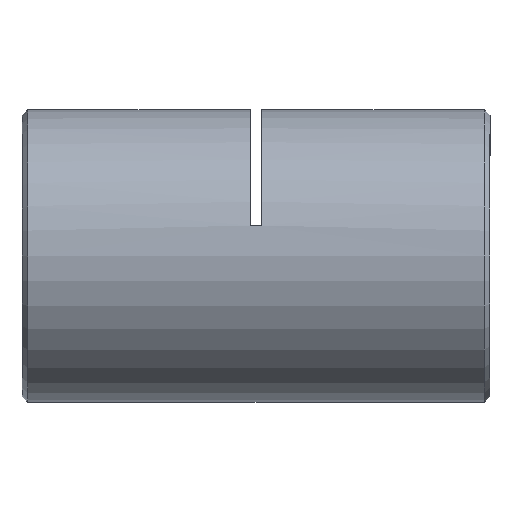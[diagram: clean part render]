
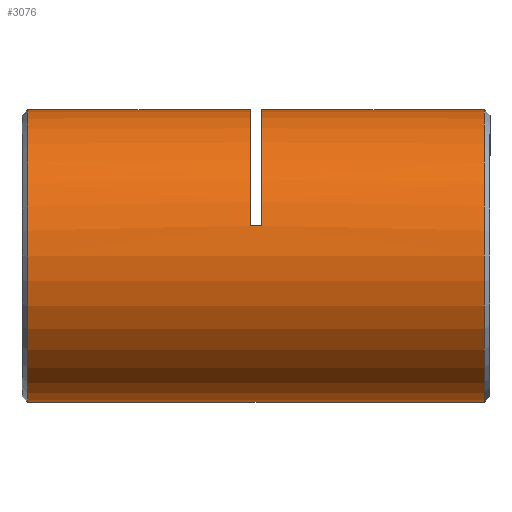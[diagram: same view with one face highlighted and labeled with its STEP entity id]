
A CAD part, left-side view. The second image highlights one B-rep face of the part: STEP entity #3076.
In plain terms, the highlighted cylindrical face has radius 12.5 mm (diameter 25 mm), a partial arc.
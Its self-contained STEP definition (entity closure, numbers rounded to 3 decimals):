
#49 = CARTESIAN_POINT ( 'NONE',  ( 0., 40.5, 12.5 ) ) ;
#174 = LINE ( 'NONE', #5553, #2905 ) ;
#190 = DIRECTION ( 'NONE',  ( 0., 1., 0. ) ) ;
#289 = CARTESIAN_POINT ( 'NONE',  ( 0., 39.75, 12.5 ) ) ;
#493 = LINE ( 'NONE', #49, #4078 ) ;
#530 = ORIENTED_EDGE ( 'NONE', *, *, #5449, .F. ) ;
#567 = EDGE_CURVE ( 'NONE', #5777, #3860, #493, .T. ) ;
#734 = CYLINDRICAL_SURFACE ( 'NONE', #1149, 12.5 ) ;
#745 = CIRCLE ( 'NONE', #2812, 12.5 ) ;
#750 = CIRCLE ( 'NONE', #2341, 12.5 ) ;
#792 = CARTESIAN_POINT ( 'NONE',  ( 0., 20.75, 0. ) ) ;
#930 = VECTOR ( 'NONE', #190, 1000. ) ;
#1087 = ORIENTED_EDGE ( 'NONE', *, *, #3614, .T. ) ;
#1103 = CARTESIAN_POINT ( 'NONE',  ( -12.226, 20.25, 2.604 ) ) ;
#1108 = CARTESIAN_POINT ( 'NONE',  ( 0., 40.5, 12.5 ) ) ;
#1149 = AXIS2_PLACEMENT_3D ( 'NONE', #4783, #5287, #3000 ) ;
#1263 = ORIENTED_EDGE ( 'NONE', *, *, #3746, .T. ) ;
#1299 = CARTESIAN_POINT ( 'NONE',  ( 0., 0.75, 0. ) ) ;
#1322 = CIRCLE ( 'NONE', #5586, 12.5 ) ;
#1497 = DIRECTION ( 'NONE',  ( 0., -1., 0. ) ) ;
#2215 = ORIENTED_EDGE ( 'NONE', *, *, #4386, .T. ) ;
#2341 = AXIS2_PLACEMENT_3D ( 'NONE', #1299, #3047, #3528 ) ;
#2397 = VERTEX_POINT ( 'NONE', #3753 ) ;
#2401 = CARTESIAN_POINT ( 'NONE',  ( 0., 0.75, -12.5 ) ) ;
#2420 = CARTESIAN_POINT ( 'NONE',  ( 0., 19.75, 0. ) ) ;
#2487 = EDGE_CURVE ( 'NONE', #4920, #3860, #1322, .T. ) ;
#2573 = CARTESIAN_POINT ( 'NONE',  ( -12.226, 19.75, 2.604 ) ) ;
#2676 = ORIENTED_EDGE ( 'NONE', *, *, #5227, .T. ) ;
#2748 = CARTESIAN_POINT ( 'NONE',  ( -12.226, 20.75, 2.604 ) ) ;
#2812 = AXIS2_PLACEMENT_3D ( 'NONE', #5032, #5509, #3258 ) ;
#2877 = LINE ( 'NONE', #1108, #4617 ) ;
#2905 = VECTOR ( 'NONE', #1497, 1000. ) ;
#3000 = DIRECTION ( 'NONE',  ( 0., 0., -1. ) ) ;
#3010 = CARTESIAN_POINT ( 'NONE',  ( 0., 20.75, 12.5 ) ) ;
#3017 = CARTESIAN_POINT ( 'NONE',  ( 0., 19.75, 12.5 ) ) ;
#3047 = DIRECTION ( 'NONE',  ( 0., 1., 0. ) ) ;
#3061 = FACE_OUTER_BOUND ( 'NONE', #3588, .T. ) ;
#3076 = ADVANCED_FACE ( 'NONE', ( #3061 ), #734, .T. ) ;
#3258 = DIRECTION ( 'NONE',  ( 0., 0., -1. ) ) ;
#3352 = DIRECTION ( 'NONE',  ( 0., 0., 1. ) ) ;
#3368 = CARTESIAN_POINT ( 'NONE',  ( 0., 0.75, 12.5 ) ) ;
#3513 = DIRECTION ( 'NONE',  ( 0., 1., 0. ) ) ;
#3528 = DIRECTION ( 'NONE',  ( 0., 0., 1. ) ) ;
#3588 = EDGE_LOOP ( 'NONE', ( #5522, #1087, #2215, #2676, #3702, #530, #1263, #4604 ) ) ;
#3614 = EDGE_CURVE ( 'NONE', #5777, #2397, #745, .T. ) ;
#3702 = ORIENTED_EDGE ( 'NONE', *, *, #5059, .F. ) ;
#3746 = EDGE_CURVE ( 'NONE', #5239, #4920, #3765, .T. ) ;
#3753 = CARTESIAN_POINT ( 'NONE',  ( 0., 39.75, -12.5 ) ) ;
#3765 = LINE ( 'NONE', #1103, #930 ) ;
#3860 = VERTEX_POINT ( 'NONE', #3010 ) ;
#3967 = CIRCLE ( 'NONE', #5001, 12.5 ) ;
#4078 = VECTOR ( 'NONE', #5459, 1000. ) ;
#4367 = DIRECTION ( 'NONE',  ( 0., 0., 1. ) ) ;
#4386 = EDGE_CURVE ( 'NONE', #2397, #5093, #174, .T. ) ;
#4604 = ORIENTED_EDGE ( 'NONE', *, *, #2487, .T. ) ;
#4617 = VECTOR ( 'NONE', #4684, 1000. ) ;
#4684 = DIRECTION ( 'NONE',  ( 0., -1., 0. ) ) ;
#4783 = CARTESIAN_POINT ( 'NONE',  ( 0., 40.5, 0. ) ) ;
#4920 = VERTEX_POINT ( 'NONE', #2748 ) ;
#5001 = AXIS2_PLACEMENT_3D ( 'NONE', #2420, #5212, #3352 ) ;
#5032 = CARTESIAN_POINT ( 'NONE',  ( 0., 39.75, 0. ) ) ;
#5059 = EDGE_CURVE ( 'NONE', #5146, #5726, #2877, .T. ) ;
#5093 = VERTEX_POINT ( 'NONE', #2401 ) ;
#5146 = VERTEX_POINT ( 'NONE', #3017 ) ;
#5212 = DIRECTION ( 'NONE',  ( 0., 1., 0. ) ) ;
#5227 = EDGE_CURVE ( 'NONE', #5093, #5726, #750, .T. ) ;
#5239 = VERTEX_POINT ( 'NONE', #2573 ) ;
#5287 = DIRECTION ( 'NONE',  ( 0., -1., 0. ) ) ;
#5449 = EDGE_CURVE ( 'NONE', #5239, #5146, #3967, .T. ) ;
#5459 = DIRECTION ( 'NONE',  ( 0., -1., 0. ) ) ;
#5509 = DIRECTION ( 'NONE',  ( 0., -1., 0. ) ) ;
#5522 = ORIENTED_EDGE ( 'NONE', *, *, #567, .F. ) ;
#5553 = CARTESIAN_POINT ( 'NONE',  ( 0., 40.5, -12.5 ) ) ;
#5586 = AXIS2_PLACEMENT_3D ( 'NONE', #792, #3513, #4367 ) ;
#5726 = VERTEX_POINT ( 'NONE', #3368 ) ;
#5777 = VERTEX_POINT ( 'NONE', #289 ) ;
